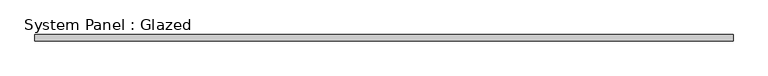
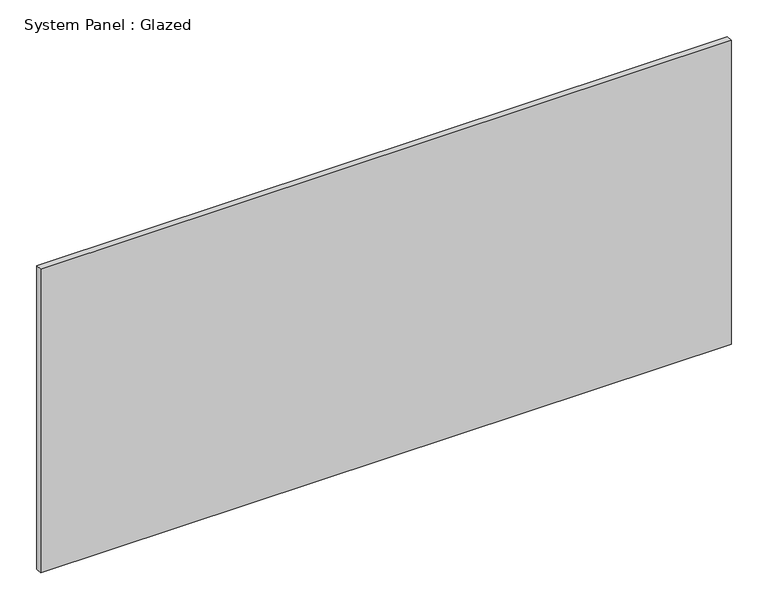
"""IFC4 building model written with IfcOpenShell, lengths in millimetres: plate geometry, System Panel : Glazed."""

from ifc_helpers import new_model, si_unit, origin, origin_with_axes, place, context, project, spatial, polyline, outline, extrude, source, transform, mapped, element, save


def system_panel_glazed_6ff0c913(model_context):
    return source(origin(), model_context, "Body", "SweptSolid", [
        extrude(outline(polyline([(541.3436275, -5.0), (-541.3436275, -5.0), (-541.3436275, 5.0), (541.3436275, 5.0), (541.3436275, -5.0)])), origin_with_axes(), (0.0, 0.0, 1.0), 503.3333333),
    ])


if __name__ == "__main__":
    model = new_model("IFC4")
    model_context = context("Model", 3, world=origin())
    ifc_project = project(units=[si_unit("LENGTHUNIT", "METRE", prefix="MILLI")], contexts=[model_context])
    site = spatial("IfcSite", under=ifc_project)
    building = spatial("IfcBuilding", under=site)
    placement = place(None, origin())
    system_panel_glazed_shape = system_panel_glazed_6ff0c913(model_context)
    element("IfcPlate", 1, ObjectType="System Panel : Glazed", at=placement, inside=building, context=model_context, shape_type="MappedRepresentation", body=[
        mapped(system_panel_glazed_shape, transform((0.0, 0.0, 0.0), x_axis=(1.0, 0.0, 0.0), y_axis=(0.0, 1.0, 0.0), z_axis=(0.0, 0.0, 1.0))),
    ])
    save(model, "model.ifc")
